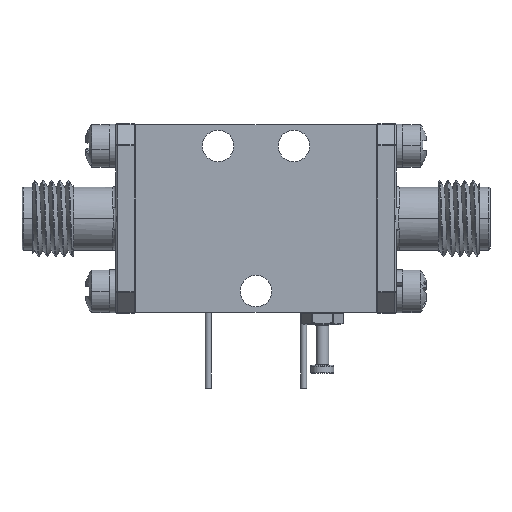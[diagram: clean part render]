
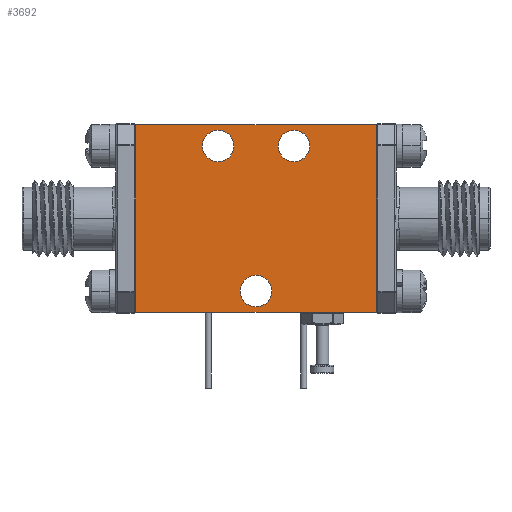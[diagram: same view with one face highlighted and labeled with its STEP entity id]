
A CAD part, front view. The second image highlights one B-rep face of the part: STEP entity #3692.
In plain terms, the highlighted planar face has unit normal (0, -1, 0).
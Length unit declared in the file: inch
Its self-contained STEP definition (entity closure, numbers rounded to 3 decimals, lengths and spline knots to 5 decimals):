
#633 = CARTESIAN_POINT ( 'NONE',  ( 0.125, -0.4, 0.2395 ) ) ;
#843 = AXIS2_PLACEMENT_3D ( 'NONE', #10567, #32540, #10314 ) ;
#988 = CARTESIAN_POINT ( 'NONE',  ( -0.397, -0.4, 0.3095 ) ) ;
#1257 = CARTESIAN_POINT ( 'NONE',  ( -0.125, -0.4, 0.2915 ) ) ;
#1520 = EDGE_CURVE ( 'NONE', #10900, #11620, #19507, .T. ) ;
#1555 = CARTESIAN_POINT ( 'NONE',  ( -0.125, -0.4, 0.2395 ) ) ;
#2819 = ORIENTED_EDGE ( 'NONE', *, *, #38357, .T. ) ;
#3285 = VECTOR ( 'NONE', #6042, 39.37008 ) ;
#3692 = ADVANCED_FACE ( 'NONE', ( #14043, #37323, #48608, #33323 ), #13790, .F. ) ;
#4158 = CIRCLE ( 'NONE', #31751, 0.052 ) ;
#5229 = ORIENTED_EDGE ( 'NONE', *, *, #33248, .T. ) ;
#5269 = EDGE_CURVE ( 'NONE', #34666, #21456, #44169, .T. ) ;
#5627 = CARTESIAN_POINT ( 'NONE',  ( -0.397, -0.4, -0.3095 ) ) ;
#6042 = DIRECTION ( 'NONE',  ( -1., 0., 0. ) ) ;
#6317 = CARTESIAN_POINT ( 'NONE',  ( 0., -0.4, -0.2395 ) ) ;
#6769 = VERTEX_POINT ( 'NONE', #43551 ) ;
#6861 = DIRECTION ( 'NONE',  ( 0., 1., 0. ) ) ;
#7028 = ORIENTED_EDGE ( 'NONE', *, *, #44554, .F. ) ;
#8087 = VERTEX_POINT ( 'NONE', #32875 ) ;
#10314 = DIRECTION ( 'NONE',  ( 0., 0., 1. ) ) ;
#10316 = EDGE_CURVE ( 'NONE', #42480, #34666, #39529, .T. ) ;
#10562 = DIRECTION ( 'NONE',  ( 0., 0., 1. ) ) ;
#10567 = CARTESIAN_POINT ( 'NONE',  ( 0., -0.4, -0.2395 ) ) ;
#10900 = VERTEX_POINT ( 'NONE', #26266 ) ;
#11620 = VERTEX_POINT ( 'NONE', #1257 ) ;
#12387 = AXIS2_PLACEMENT_3D ( 'NONE', #1555, #42333, #24301 ) ;
#12521 = CARTESIAN_POINT ( 'NONE',  ( 0.397, -0.4, -0.3095 ) ) ;
#12595 = DIRECTION ( 'NONE',  ( 0., 1., 0. ) ) ;
#12648 = CARTESIAN_POINT ( 'NONE',  ( 0., -0.4, -0.2915 ) ) ;
#12683 = CIRCLE ( 'NONE', #843, 0.052 ) ;
#12932 = VECTOR ( 'NONE', #15751, 39.37008 ) ;
#13239 = ORIENTED_EDGE ( 'NONE', *, *, #27359, .T. ) ;
#13790 = PLANE ( 'NONE',  #17863 ) ;
#14043 = FACE_OUTER_BOUND ( 'NONE', #32839, .T. ) ;
#14204 = VECTOR ( 'NONE', #47869, 39.37008 ) ;
#14265 = CARTESIAN_POINT ( 'NONE',  ( 0.125, -0.4, 0.2395 ) ) ;
#15277 = VECTOR ( 'NONE', #43435, 39.37008 ) ;
#15417 = CIRCLE ( 'NONE', #31157, 0.052 ) ;
#15751 = DIRECTION ( 'NONE',  ( 0., 0., -1. ) ) ;
#17863 = AXIS2_PLACEMENT_3D ( 'NONE', #33063, #6861, #28860 ) ;
#18182 = CIRCLE ( 'NONE', #26830, 0.052 ) ;
#18931 = EDGE_CURVE ( 'NONE', #43699, #42480, #24842, .T. ) ;
#19507 = CIRCLE ( 'NONE', #12387, 0.052 ) ;
#19865 = ORIENTED_EDGE ( 'NONE', *, *, #18931, .F. ) ;
#20530 = CARTESIAN_POINT ( 'NONE',  ( -0.125, -0.4, 0.2395 ) ) ;
#20676 = DIRECTION ( 'NONE',  ( 0., 0., 1. ) ) ;
#21086 = ORIENTED_EDGE ( 'NONE', *, *, #5269, .F. ) ;
#21191 = DIRECTION ( 'NONE',  ( 0., 0., 1. ) ) ;
#21456 = VERTEX_POINT ( 'NONE', #24582 ) ;
#24301 = DIRECTION ( 'NONE',  ( 0., 0., 1. ) ) ;
#24582 = CARTESIAN_POINT ( 'NONE',  ( 0.397, -0.4, 0.3095 ) ) ;
#24695 = DIRECTION ( 'NONE',  ( 0., 1., 0. ) ) ;
#24842 = LINE ( 'NONE', #47791, #3285 ) ;
#25167 = CARTESIAN_POINT ( 'NONE',  ( -0.397, -0.4, 0.3095 ) ) ;
#25982 = EDGE_LOOP ( 'NONE', ( #2819, #46465 ) ) ;
#26047 = ORIENTED_EDGE ( 'NONE', *, *, #10316, .F. ) ;
#26266 = CARTESIAN_POINT ( 'NONE',  ( -0.125, -0.4, 0.1875 ) ) ;
#26716 = CARTESIAN_POINT ( 'NONE',  ( -0.397, -0.4, -0.3095 ) ) ;
#26830 = AXIS2_PLACEMENT_3D ( 'NONE', #633, #43366, #20676 ) ;
#27104 = VERTEX_POINT ( 'NONE', #30505 ) ;
#27359 = EDGE_CURVE ( 'NONE', #8087, #36349, #12683, .T. ) ;
#28860 = DIRECTION ( 'NONE',  ( 0., 0., 1. ) ) ;
#30505 = CARTESIAN_POINT ( 'NONE',  ( 0.125, -0.4, 0.1875 ) ) ;
#31157 = AXIS2_PLACEMENT_3D ( 'NONE', #14265, #36545, #10562 ) ;
#31751 = AXIS2_PLACEMENT_3D ( 'NONE', #6317, #12595, #21191 ) ;
#32340 = DIRECTION ( 'NONE',  ( 0., 0., 1. ) ) ;
#32540 = DIRECTION ( 'NONE',  ( 0., 1., 0. ) ) ;
#32839 = EDGE_LOOP ( 'NONE', ( #26047, #19865, #7028, #21086 ) ) ;
#32875 = CARTESIAN_POINT ( 'NONE',  ( 0., -0.4, -0.1875 ) ) ;
#33063 = CARTESIAN_POINT ( 'NONE',  ( 0., -0.4, 0. ) ) ;
#33248 = EDGE_CURVE ( 'NONE', #6769, #27104, #18182, .T. ) ;
#33323 = FACE_BOUND ( 'NONE', #34960, .T. ) ;
#34666 = VERTEX_POINT ( 'NONE', #988 ) ;
#34960 = EDGE_LOOP ( 'NONE', ( #13239, #44973 ) ) ;
#35986 = ORIENTED_EDGE ( 'NONE', *, *, #45807, .T. ) ;
#36349 = VERTEX_POINT ( 'NONE', #12648 ) ;
#36545 = DIRECTION ( 'NONE',  ( 0., 1., 0. ) ) ;
#36788 = AXIS2_PLACEMENT_3D ( 'NONE', #20530, #24695, #32340 ) ;
#37323 = FACE_BOUND ( 'NONE', #47526, .T. ) ;
#38320 = CIRCLE ( 'NONE', #36788, 0.052 ) ;
#38357 = EDGE_CURVE ( 'NONE', #11620, #10900, #38320, .T. ) ;
#38514 = LINE ( 'NONE', #12521, #12932 ) ;
#39529 = LINE ( 'NONE', #5627, #15277 ) ;
#42333 = DIRECTION ( 'NONE',  ( 0., 1., 0. ) ) ;
#42480 = VERTEX_POINT ( 'NONE', #26716 ) ;
#43366 = DIRECTION ( 'NONE',  ( 0., 1., 0. ) ) ;
#43435 = DIRECTION ( 'NONE',  ( 0., 0., 1. ) ) ;
#43551 = CARTESIAN_POINT ( 'NONE',  ( 0.125, -0.4, 0.2915 ) ) ;
#43588 = EDGE_CURVE ( 'NONE', #36349, #8087, #4158, .T. ) ;
#43699 = VERTEX_POINT ( 'NONE', #48311 ) ;
#44169 = LINE ( 'NONE', #25167, #14204 ) ;
#44554 = EDGE_CURVE ( 'NONE', #21456, #43699, #38514, .T. ) ;
#44973 = ORIENTED_EDGE ( 'NONE', *, *, #43588, .T. ) ;
#45807 = EDGE_CURVE ( 'NONE', #27104, #6769, #15417, .T. ) ;
#46465 = ORIENTED_EDGE ( 'NONE', *, *, #1520, .T. ) ;
#47526 = EDGE_LOOP ( 'NONE', ( #5229, #35986 ) ) ;
#47791 = CARTESIAN_POINT ( 'NONE',  ( -0.397, -0.4, -0.3095 ) ) ;
#47869 = DIRECTION ( 'NONE',  ( 1., 0., 0. ) ) ;
#48311 = CARTESIAN_POINT ( 'NONE',  ( 0.397, -0.4, -0.3095 ) ) ;
#48608 = FACE_BOUND ( 'NONE', #25982, .T. ) ;
